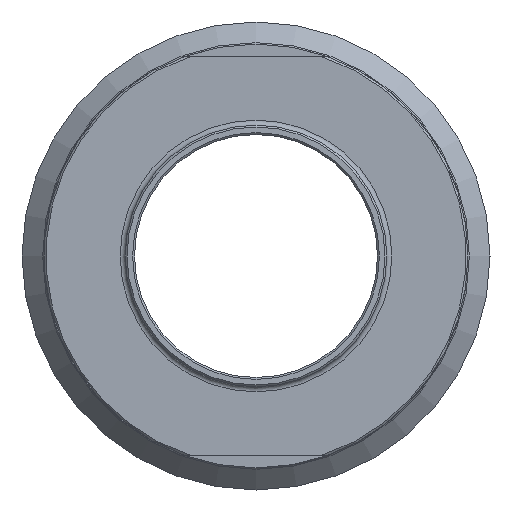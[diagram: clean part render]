
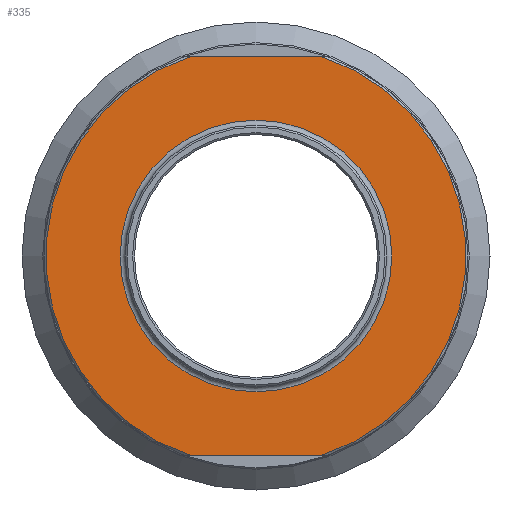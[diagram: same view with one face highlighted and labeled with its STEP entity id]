
A CAD part, left-side view. The second image highlights one B-rep face of the part: STEP entity #335.
In plain terms, the highlighted planar face has unit normal (-1, 0, 0).
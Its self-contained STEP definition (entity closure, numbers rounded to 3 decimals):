
#28=FACE_BOUND('',#85,.T.);
#33=CIRCLE('',#378,33.7);
#34=CIRCLE('',#379,33.7);
#35=CIRCLE('',#380,21.8);
#64=FACE_OUTER_BOUND('',#84,.T.);
#84=EDGE_LOOP('',(#240,#241,#242,#243));
#85=EDGE_LOOP('',(#244));
#106=LINE('',#554,#123);
#110=LINE('',#573,#127);
#123=VECTOR('',#427,10.);
#127=VECTOR('',#437,10.);
#142=VERTEX_POINT('',#540);
#146=VERTEX_POINT('',#550);
#148=VERTEX_POINT('',#559);
#152=VERTEX_POINT('',#569);
#153=VERTEX_POINT('',#579);
#179=EDGE_CURVE('',#142,#146,#106,.T.);
#186=EDGE_CURVE('',#148,#152,#110,.T.);
#188=EDGE_CURVE('',#148,#146,#33,.T.);
#189=EDGE_CURVE('',#142,#152,#34,.T.);
#190=EDGE_CURVE('',#153,#153,#35,.T.);
#240=ORIENTED_EDGE('',*,*,#179,.T.);
#241=ORIENTED_EDGE('',*,*,#188,.F.);
#242=ORIENTED_EDGE('',*,*,#186,.T.);
#243=ORIENTED_EDGE('',*,*,#189,.F.);
#244=ORIENTED_EDGE('',*,*,#190,.F.);
#328=PLANE('',#377);
#335=ADVANCED_FACE('',(#64,#28),#328,.T.);
#377=AXIS2_PLACEMENT_3D('',#576,#442,#443);
#378=AXIS2_PLACEMENT_3D('',#577,#444,#445);
#379=AXIS2_PLACEMENT_3D('',#578,#446,#447);
#380=AXIS2_PLACEMENT_3D('',#580,#448,#449);
#427=DIRECTION('',(0.,1.,0.));
#437=DIRECTION('',(0.,-1.,0.));
#442=DIRECTION('center_axis',(-1.,0.,0.));
#443=DIRECTION('ref_axis',(0.,0.,1.));
#444=DIRECTION('center_axis',(1.,0.,0.));
#445=DIRECTION('ref_axis',(0.,-1.,0.));
#446=DIRECTION('center_axis',(1.,0.,0.));
#447=DIRECTION('ref_axis',(0.,-1.,0.));
#448=DIRECTION('center_axis',(-1.,0.,0.));
#449=DIRECTION('ref_axis',(0.,-1.,0.));
#540=CARTESIAN_POINT('',(-29.,-10.568,32.));
#550=CARTESIAN_POINT('',(-29.,10.568,32.));
#554=CARTESIAN_POINT('',(-29.,-19.776,32.));
#559=CARTESIAN_POINT('',(-29.,10.568,-32.));
#569=CARTESIAN_POINT('',(-29.,-10.568,-32.));
#573=CARTESIAN_POINT('',(-29.,53.192,-32.));
#576=CARTESIAN_POINT('Origin',(-29.,34.,0.));
#577=CARTESIAN_POINT('Origin',(-29.,0.,0.));
#578=CARTESIAN_POINT('Origin',(-29.,0.,0.));
#579=CARTESIAN_POINT('',(-29.,0.,21.8));
#580=CARTESIAN_POINT('Origin',(-29.,0.,0.));
